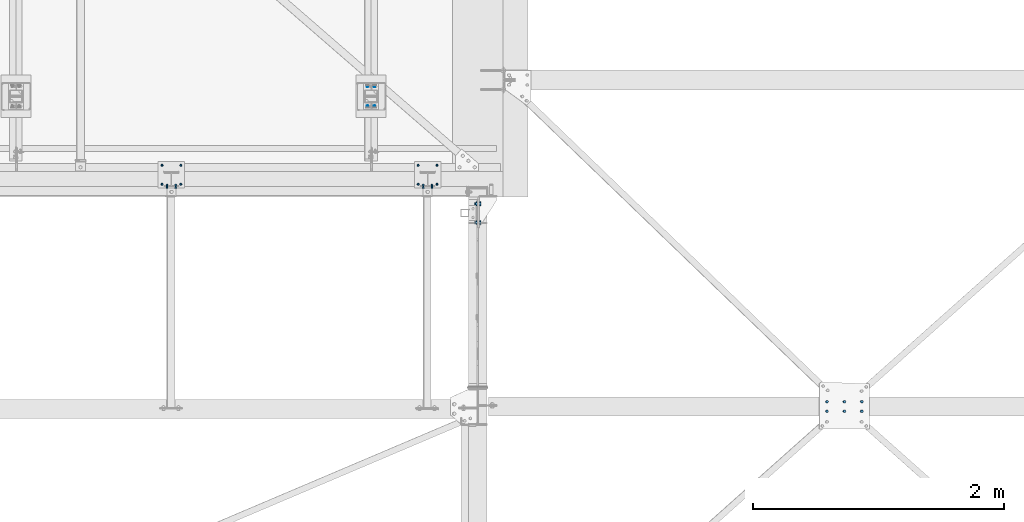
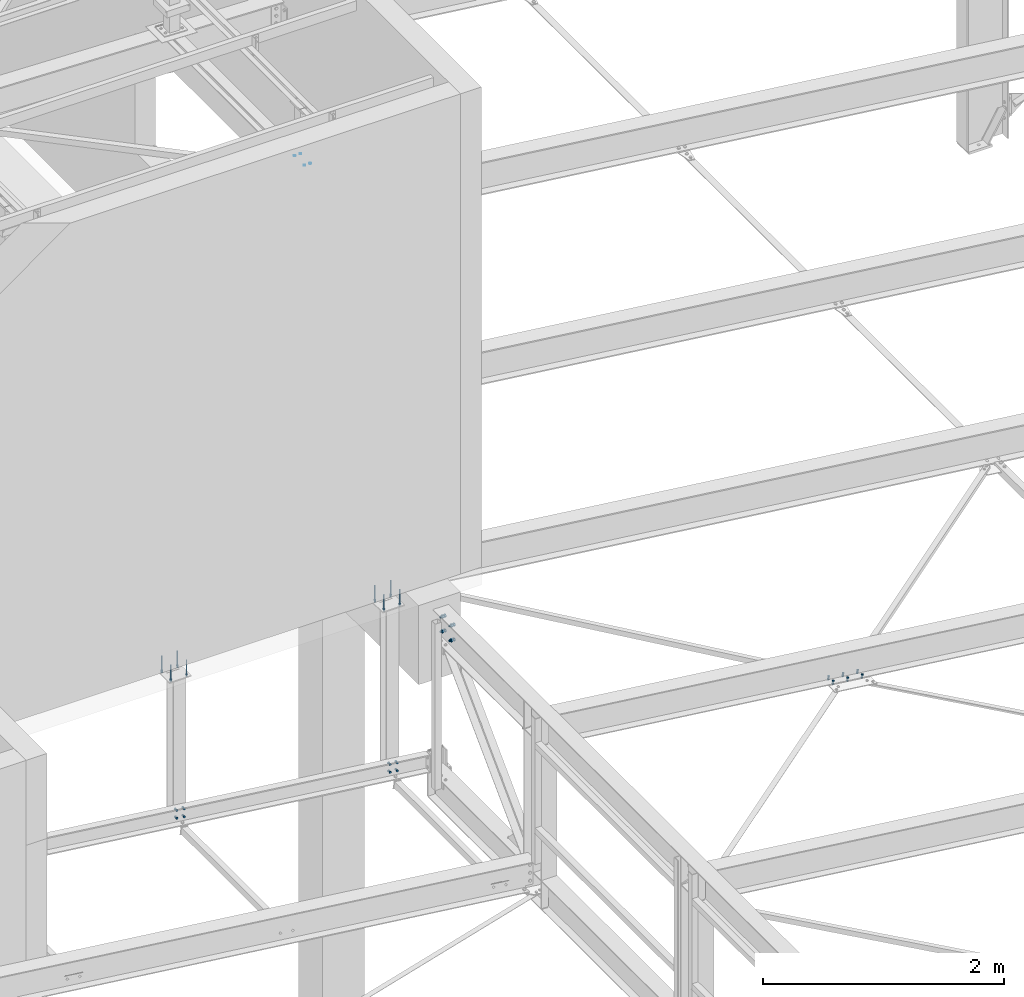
# One storey, part 265 of 3134: 9 mechanical fasteners, 5 elements without a shape of their own.
"""IFC2X3 building model written with IfcOpenShell, lengths in millimetres."""

import ifcopenshell
import ifcopenshell.guid

model = None  # the IFC model being written
_history = None  # IfcOwnerHistory: only IFC2X3 demands one
_inside = {}  # id of a spatial element -> (the spatial element, [elements in it])
_under = {}  # id of a project, library or spatial element -> (it, [spatial elements below it])
_declared = {}  # id of a project -> (the project, [libraries it declares])
_typed = {}  # id of a type object -> (the type object, [elements of that type])
_made_of = {}  # id of a material, layer set ... -> (it, [elements and type objects made of it])


def new_model(schema):
    """Start an empty IFC model of exactly this schema.

    Asked for "IFC4X3", IfcOpenShell would pick the latest addendum, in which some entities
    have other attributes; the version numbers below select the first issue.
    IFC2X3 requires an IfcOwnerHistory on every rooted entity: one is made here for all.
    """
    global model, _history
    if schema == "IFC4X3":
        model = ifcopenshell.file(schema_version=(4, 3, 0, 0))
    else:
        model = ifcopenshell.file(schema=schema)
    _inside.clear()
    _under.clear()
    _declared.clear()
    _typed.clear()
    _made_of.clear()
    _history = None
    if model.schema == "IFC2X3":
        org = make("IfcOrganization", Name="unknown")
        user = make(
            "IfcPersonAndOrganization",
            ThePerson=make("IfcPerson", FamilyName="unknown"),
            TheOrganization=org,
        )
        app = make(
            "IfcApplication",
            ApplicationDeveloper=org,
            Version="unknown",
            ApplicationFullName="unknown",
            ApplicationIdentifier="unknown",
        )
        _history = make(
            "IfcOwnerHistory",
            OwningUser=user,
            OwningApplication=app,
            ChangeAction="ADDED",
            CreationDate=0,
        )
    return model


def make(cls, **values):
    """One entity of the class cls with the attributes given. An attribute that is None is left unset."""
    return model.create_entity(
        cls, **{name: value for name, value in values.items() if value is not None}
    )


def rooted(cls, **values):
    """An entity with a GlobalId (a new one), such as an element, a storey or a relation."""
    return make(cls, GlobalId=ifcopenshell.guid.new(), OwnerHistory=_history, **values)


def si_unit(unit_type, name, prefix=None):
    """IfcSIUnit, for example si_unit("LENGTHUNIT", "METRE", prefix="MILLI")."""
    return make("IfcSIUnit", UnitType=unit_type, Prefix=prefix, Name=name)


def assignment(units):
    """IfcUnitAssignment: the units of a project."""
    return None if units is None else make("IfcUnitAssignment", Units=units)


def point(xyz):
    """IfcCartesianPoint."""
    return None if xyz is None else make("IfcCartesianPoint", Coordinates=xyz)


def direction(xyz):
    """IfcDirection."""
    return None if xyz is None else make("IfcDirection", DirectionRatios=xyz)


def frame(location, z_axis=None, x_axis=None):
    """IfcAxis2Placement3D, a coordinate frame: its origin and axes. An axis left out is left unset."""
    return make(
        "IfcAxis2Placement3D",
        Location=point(location),
        Axis=direction(z_axis),
        RefDirection=direction(x_axis),
    )


def origin_with_axes():
    """The frame at (0, 0, 0) with the z axis (0, 0, 1) and the x axis (1, 0, 0) written out."""
    return frame((0.0, 0.0, 0.0), z_axis=(0.0, 0.0, 1.0), x_axis=(1.0, 0.0, 0.0))


def place(relative_to, where):
    """IfcLocalPlacement: puts the frame where relative to a parent placement (None: the world)."""
    return make(
        "IfcLocalPlacement", PlacementRelTo=relative_to, RelativePlacement=where
    )


def context(
    kind, dimensions, precision=None, world=None, true_north=None, identifier=None
):
    """IfcGeometricRepresentationContext, for example the 3D "Model" context."""
    return make(
        "IfcGeometricRepresentationContext",
        ContextIdentifier=identifier,
        ContextType=kind,
        CoordinateSpaceDimension=dimensions,
        Precision=precision,
        WorldCoordinateSystem=world,
        TrueNorth=true_north,
    )


def subcontext(parent, identifier, kind, view, scale=None):
    """IfcGeometricRepresentationSubContext, for example "Body" below "Model"."""
    return make(
        "IfcGeometricRepresentationSubContext",
        ContextIdentifier=identifier,
        ContextType=kind,
        ParentContext=parent,
        TargetScale=scale,
        TargetView=view,
    )


def project(units=None, contexts=None):
    """IfcProject with its units and contexts."""
    return rooted(
        "IfcProject",
        Name="project",
        RepresentationContexts=contexts,
        UnitsInContext=assignment(units),
    )


def spatial(cls, under=None, at=None, **own):
    """A site, building, storey or space (cls), placed at a placement, below another one or the project."""
    s = rooted(cls, ObjectPlacement=at, **own)
    if under is not None:
        _under.setdefault(under.id(), (under, []))[1].append(s)
    return s


def faces_of(points, faces, orient=None, outer=None):
    """IfcFace entities. A face is a list of loops; a loop is a list of indices into points, from 0.

    orient and outer hold one flag for each loop. By default every Orientation is true, the
    first loop of a face is its IfcFaceOuterBound and the others are IfcFaceBound.
    """
    made = []
    for i, loops in enumerate(faces):
        bounds = []
        for j, loop in enumerate(loops):
            is_outer = j == 0 if outer is None else outer[i][j]
            bounds.append(
                make(
                    "IfcFaceOuterBound" if is_outer else "IfcFaceBound",
                    Bound=make("IfcPolyLoop", Polygon=[points[k] for k in loop]),
                    Orientation=True if orient is None else orient[i][j],
                )
            )
        made.append(make("IfcFace", Bounds=bounds))
    return made


def faceted_brep(points, faces, orient=None, outer=None, voids=None):
    """IfcFacetedBrep: a solid bounded by flat faces; with voids (closed shells), ...WithVoids."""
    shared = [point(p) for p in points]
    hull = make("IfcClosedShell", CfsFaces=faces_of(shared, faces, orient, outer))
    if voids is None:
        return make("IfcFacetedBrep", Outer=hull)
    return make(
        "IfcFacetedBrepWithVoids",
        Outer=hull,
        Voids=[
            make(cls, CfsFaces=faces_of(shared, fs, o, b)) for cls, fs, o, b in voids
        ],
    )


def shape(context_of_items, identifier, shape_type, items):
    """IfcShapeRepresentation: the items that make up one representation, for example the "Body"."""
    return make(
        "IfcShapeRepresentation",
        ContextOfItems=context_of_items,
        RepresentationIdentifier=identifier,
        RepresentationType=shape_type,
        Items=items,
    )


def source(mapping_origin, context_of_items, identifier, shape_type, items):
    """IfcRepresentationMap: a shape defined once, which mapped items show again and again."""
    return make(
        "IfcRepresentationMap",
        MappingOrigin=mapping_origin,
        MappedRepresentation=shape(context_of_items, identifier, shape_type, items),
    )


def transform(
    local_origin,
    x_axis=None,
    y_axis=None,
    z_axis=None,
    scale=None,
    scale2=None,
    scale3=None,
    uniform=True,
):
    """IfcCartesianTransformationOperator3D, or its non-uniform kind. x_axis, y_axis, z_axis: its Axis1, 2, 3."""
    if uniform:
        return make(
            "IfcCartesianTransformationOperator3D",
            Axis1=direction(x_axis),
            Axis2=direction(y_axis),
            LocalOrigin=point(local_origin),
            Scale=scale,
            Axis3=direction(z_axis),
        )
    return make(
        "IfcCartesianTransformationOperator3DnonUniform",
        Axis1=direction(x_axis),
        Axis2=direction(y_axis),
        LocalOrigin=point(local_origin),
        Scale=scale,
        Axis3=direction(z_axis),
        Scale2=scale2,
        Scale3=scale3,
    )


def mapped(mapping_source, mapping_target):
    """IfcMappedItem: shows the shape of a source again, moved by a transform."""
    return make(
        "IfcMappedItem", MappingSource=mapping_source, MappingTarget=mapping_target
    )


def material(Name=None, Category=None):
    """IfcMaterial."""
    return make("IfcMaterial", Name=Name, Category=Category)


def made_of(thing, what):
    """Note that an element or type object is made of a material, layer set ...; save() writes the relation."""
    if what is not None:
        _made_of.setdefault(what.id(), (what, []))[1].append(thing)
    return thing


def type_object(cls, material=None, **own):
    """A type object (cls), such as IfcWallType, which elements share."""
    return made_of(rooted(cls, **own), material)


def element(
    cls,
    number,
    at=None,
    inside=None,
    cuts=None,
    type_object=None,
    material=None,
    context=None,
    identifier="Body",
    shape_type=None,
    held_by="IfcProductDefinitionShape",
    body=None,
    shapes=None,
    **own,
):
    """One element of the class cls, such as IfcWall. Its Tag is "e" and its number.

    at: its placement. inside: the storey or other place that contains it. cuts: it is an
    opening in that element (IfcRelVoidsElement). A single representation is given by context,
    identifier, shape_type and body (its items); several are given by shapes. held_by: the class
    of the entity that holds the representations. save() writes the other relations.
    """
    e = rooted(cls, Tag="e%d" % number, ObjectPlacement=at, **own)
    if body is not None:
        shapes = [shape(context, identifier, shape_type, body)]
    if shapes is not None:
        e.Representation = make(held_by, Representations=shapes)
    if inside is not None:
        _inside.setdefault(inside.id(), (inside, []))[1].append(e)
    if cuts is not None:
        rooted(
            "IfcRelVoidsElement", RelatingBuildingElement=cuts, RelatedOpeningElement=e
        )
    if type_object is not None:
        _typed.setdefault(type_object.id(), (type_object, []))[1].append(e)
    return made_of(e, material)


def aggregate(whole, parts):
    """IfcRelAggregates: a whole, such as a stair, and the parts it consists of."""
    return rooted("IfcRelAggregates", RelatingObject=whole, RelatedObjects=parts)


def save(model, path):
    """Write the relations noted so far, then the file.

    IfcRelAggregates (storeys below a building ...), IfcRelContainedInSpatialStructure (elements
    in a storey), IfcRelDefinesByType, IfcRelAssociatesMaterial and IfcRelDeclares: one each for
    every whole, place, type object, material and project.
    """
    for whole, parts in _under.values():
        aggregate(whole, parts)
    for where, things in _inside.values():
        rooted(
            "IfcRelContainedInSpatialStructure",
            RelatedElements=things,
            RelatingStructure=where,
        )
    for kind, things in _typed.values():
        rooted("IfcRelDefinesByType", RelatedObjects=things, RelatingType=kind)
    for what, things in _made_of.values():
        rooted("IfcRelAssociatesMaterial", RelatedObjects=things, RelatingMaterial=what)
    for by, libraries in _declared.values():
        rooted("IfcRelDeclares", RelatingContext=by, RelatedDefinitions=libraries)
    model.write(path)


model = new_model("IFC2X3")

# Units and contexts
model_context = context("Model", 3, precision=1e-05, world=origin_with_axes())
body_context = subcontext(model_context, "Body", "Model", "MODEL_VIEW")
ifc_project = project(units=[si_unit("LENGTHUNIT", "METRE", prefix="MILLI"), si_unit("AREAUNIT", "SQUARE_METRE"), si_unit("VOLUMEUNIT", "CUBIC_METRE"), si_unit("MASSUNIT", "GRAM", prefix="KILO"), si_unit("TIMEUNIT", "SECOND"), si_unit("PLANEANGLEUNIT", "RADIAN"), si_unit("SOLIDANGLEUNIT", "STERADIAN"), si_unit("THERMODYNAMICTEMPERATUREUNIT", "DEGREE_CELSIUS"), si_unit("LUMINOUSINTENSITYUNIT", "LUMEN")], contexts=[model_context])

# Site, building, storey
site_placement = place(None, origin_with_axes())
site = spatial("IfcSite", under=ifc_project, at=site_placement, CompositionType="ELEMENT")
building_placement = place(site_placement, origin_with_axes())
building = spatial("IfcBuilding", under=site, at=building_placement, Name="Undefined", CompositionType="ELEMENT")
storey_placement = place(building_placement, origin_with_axes())
storey = spatial("IfcBuildingStorey", under=building, at=storey_placement, Name="Undefined", CompositionType="ELEMENT", Elevation=0.0)

# Assembly, mechanical fastener
assembly_1_placement = place(storey_placement, origin_with_axes())
assembly_1 = element("IfcElementAssembly", 1, at=assembly_1_placement, inside=storey, Name="HEA120", AssemblyPlace="NOTDEFINED", PredefinedType="RIGID_FRAME")
ifc_material_1 = material(Name="HILTI-HAS")
mechanical_fastener_type = type_object("IfcMechanicalFastenerType", Name="Bolt assembly")
shared_shape_1 = source(origin_with_axes(), body_context, "Body", "Brep", [
    faceted_brep([(10.3923048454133, -17.92, 0.0), (5.19615242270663, -17.92, 9.0), (-5.19615242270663, -17.92, 9.0), (-10.3923048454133, -17.92, 1.27269028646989e-15), (-5.19615242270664, -17.92, -9.0), (5.19615242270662, -17.92, -9.0), (5.19615242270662, -10.0, -9.0), (-5.19615242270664, -10.0, -9.0), (-10.3923048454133, -10.0, 1.27269028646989e-15), (-5.19615242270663, -10.0, 9.0), (5.19615242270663, -10.0, 9.0), (10.3923048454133, -10.0, 0.0), (6.0, -10.0, 0.0), (5.19615242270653, -10.0, 3.00000000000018), (2.99999999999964, -10.0, 5.19615242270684), (-6.21801588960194e-13, -10.0, 6.0), (-3.00000000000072, -10.0, 5.19615242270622), (-5.19615242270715, -10.0, 2.9999999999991), (-6.0, -10.0, -1.24360317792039e-12), (-5.19615242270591, -10.0, -3.00000000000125), (-2.99999999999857, -10.0, -5.19615242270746), (1.85874342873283e-12, -10.0, -6.0), (3.00000000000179, -10.0, -5.1961524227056), (5.19615242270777, -10.0, -2.99999999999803), (5.19615242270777, 150.0, -2.99999999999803), (3.00000000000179, 150.0, -5.1961524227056), (1.85874342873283e-12, 150.0, -6.0), (-2.99999999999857, 150.0, -5.19615242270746), (-5.19615242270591, 150.0, -3.00000000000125), (-6.0, 150.0, -1.24360317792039e-12), (-5.19615242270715, 150.0, 2.9999999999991), (-3.00000000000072, 150.0, 5.19615242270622), (-6.21801588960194e-13, 150.0, 6.0), (2.99999999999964, 150.0, 5.19615242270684), (5.19615242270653, 150.0, 3.00000000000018), (6.0, 150.0, 0.0), (11.5008173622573, 0.0, 0.0), (5.75040868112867, 0.0, 9.96), (-5.75040868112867, 0.0, 9.96), (-11.5008173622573, 0.0, 1.40844391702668e-15), (-5.75040868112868, 0.0, -9.96), (5.75040868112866, 0.0, -9.96), (5.75040868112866, 7.92, -9.96), (-5.75040868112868, 7.92, -9.96), (-11.5008173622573, 7.92, 1.40844391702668e-15), (-5.75040868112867, 7.92, 9.96), (5.75040868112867, 7.92, 9.96), (11.5008173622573, 7.92, 0.0)], [[[0, 1, 2, 3, 4, 5]], [[6, 7, 8, 9, 10, 11]], [[0, 11, 10, 1]], [[1, 10, 9, 2]], [[2, 9, 8, 3]], [[3, 8, 7, 4]], [[4, 7, 6, 5]], [[5, 6, 11, 0]], [[12, 13, 14, 15, 16, 17, 18, 19, 20, 21, 22, 23]], [[24, 25, 26, 27, 28, 29, 30, 31, 32, 33, 34, 35]], [[12, 35, 34, 13]], [[13, 34, 33, 14]], [[14, 33, 32, 15]], [[15, 32, 31, 16]], [[16, 31, 30, 17]], [[17, 30, 29, 18]], [[18, 29, 28, 19]], [[19, 28, 27, 20]], [[20, 27, 26, 21]], [[21, 26, 25, 22]], [[22, 25, 24, 23]], [[23, 24, 35, 12]], [[36, 37, 38, 39, 40, 41]], [[42, 43, 44, 45, 46, 47]], [[36, 47, 46, 37]], [[37, 46, 45, 38]], [[38, 45, 44, 39]], [[39, 44, 43, 40]], [[40, 43, 42, 41]], [[41, 42, 47, 36]]]),
    faceted_brep([(7.0, -10.0, 0.0), (6.06217782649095, -10.0, 3.50000000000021), (3.49999999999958, -10.0, 6.06217782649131), (-7.25435187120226e-13, -10.0, 7.0), (-3.50000000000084, -10.0, 6.06217782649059), (-6.06217782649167, -10.0, 3.49999999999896), (-7.0, -10.0, -1.45087037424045e-12), (-6.06217782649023, -10.0, -3.50000000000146), (-3.49999999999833, -10.0, -6.06217782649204), (2.1685340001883e-12, -10.0, -7.0), (3.50000000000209, -10.0, -6.06217782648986), (6.0621778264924, -10.0, -3.4999999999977), (6.0621778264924, 0.0999999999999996, -3.4999999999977), (3.50000000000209, 0.0999999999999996, -6.06217782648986), (2.1685340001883e-12, 0.0999999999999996, -7.0), (-3.49999999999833, 0.0999999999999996, -6.06217782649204), (-6.06217782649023, 0.0999999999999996, -3.50000000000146), (-7.0, 0.0999999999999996, -1.45087037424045e-12), (-6.06217782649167, 0.0999999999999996, 3.49999999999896), (-3.50000000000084, 0.0999999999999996, 6.06217782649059), (-7.25435187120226e-13, 0.0999999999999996, 7.0), (3.49999999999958, 0.0999999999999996, 6.06217782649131), (6.06217782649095, 0.0999999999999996, 3.50000000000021), (7.0, 0.0999999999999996, 0.0)], [[[0, 1, 2, 3, 4, 5, 6, 7, 8, 9, 10, 11]], [[12, 13, 14, 15, 16, 17, 18, 19, 20, 21, 22, 23]], [[0, 23, 22, 1]], [[1, 22, 21, 2]], [[2, 21, 20, 3]], [[3, 20, 19, 4]], [[4, 19, 18, 5]], [[5, 18, 17, 6]], [[6, 17, 16, 7]], [[7, 16, 15, 8]], [[8, 15, 14, 9]], [[9, 14, 13, 10]], [[10, 13, 12, 11]], [[11, 12, 23, 0]]]),
])
mechanical_fastener_1_placement = place(assembly_1_placement, frame((32050.0, 49894.9999999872, 5960.0), z_axis=(0.0, -1.0, 0.0), x_axis=(1.0, 0.0, 0.0)))
mechanical_fastener_1 = element("IfcMechanicalFastener", 2, at=mechanical_fastener_1_placement, type_object=mechanical_fastener_type, material=ifc_material_1, Name="Bolt assembly", NominalDiameter=12.0, NominalLength=160.0, context=body_context, shape_type="MappedRepresentation", body=[
    mapped(shared_shape_1, transform((0.0, 0.0, -75.0))),
    mapped(shared_shape_1, transform((150.0, 0.0, -75.0))),
    mapped(shared_shape_1, transform((0.0, 0.0, 75.0))),
    mapped(shared_shape_1, transform((150.0, 0.0, 75.0))),
])

assembly_2_placement = place(storey_placement, origin_with_axes())
assembly_2 = element("IfcElementAssembly", 3, at=assembly_2_placement, inside=storey, Name="HEA120", AssemblyPlace="NOTDEFINED", PredefinedType="RIGID_FRAME")
mechanical_fastener_2_placement = place(assembly_2_placement, frame((30010.0, 49894.9999999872, 5960.0), z_axis=(0.0, -1.0, 0.0), x_axis=(1.0, 0.0, 0.0)))
mechanical_fastener_2 = element("IfcMechanicalFastener", 4, at=mechanical_fastener_2_placement, type_object=mechanical_fastener_type, material=ifc_material_1, Name="Bolt assembly", NominalDiameter=12.0, NominalLength=160.0, context=body_context, shape_type="MappedRepresentation", body=[
    mapped(shared_shape_1, transform((0.0, 0.0, -75.0))),
    mapped(shared_shape_1, transform((150.0, 0.0, -75.0))),
    mapped(shared_shape_1, transform((0.0, 0.0, 75.0))),
    mapped(shared_shape_1, transform((150.0, 0.0, 75.0))),
])

# Mechanical fastener
ifc_material_2 = material(Name="8.8")
shared_shape_2 = source(origin_with_axes(), body_context, "Body", "Brep", [
    faceted_brep([(10.9696551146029, -16.0, 0.0), (5.48482755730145, -16.0, 9.5), (-5.48482755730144, -16.0, 9.5), (-10.9696551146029, -16.0, 1.34339530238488e-15), (-5.48482755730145, -16.0, -9.5), (5.48482755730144, -16.0, -9.50000000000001), (5.48482755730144, -8.0, -9.50000000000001), (-5.48482755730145, -8.0, -9.5), (-10.9696551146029, -8.0, 1.34339530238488e-15), (-5.48482755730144, -8.0, 9.5), (5.48482755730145, -8.0, 9.5), (10.9696551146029, -8.0, 0.0), (6.0, -8.0, 0.0), (5.19615242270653, -8.0, 3.00000000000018), (2.99999999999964, -8.0, 5.19615242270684), (-6.21801588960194e-13, -8.0, 6.0), (-3.00000000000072, -8.0, 5.19615242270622), (-5.19615242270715, -8.0, 2.9999999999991), (-6.0, -8.0, -1.24360317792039e-12), (-5.19615242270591, -8.0, -3.00000000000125), (-2.99999999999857, -8.0, -5.19615242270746), (1.85874342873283e-12, -8.0, -6.0), (3.00000000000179, -8.0, -5.1961524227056), (5.19615242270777, -8.0, -2.99999999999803), (5.19615242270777, 22.0, -2.99999999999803), (3.00000000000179, 22.0, -5.1961524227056), (1.85874342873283e-12, 22.0, -6.0), (-2.99999999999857, 22.0, -5.19615242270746), (-5.19615242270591, 22.0, -3.00000000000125), (-6.0, 22.0, -1.24360317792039e-12), (-5.19615242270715, 22.0, 2.9999999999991), (-3.00000000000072, 22.0, 5.19615242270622), (-6.21801588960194e-13, 22.0, 6.0), (2.99999999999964, 22.0, 5.19615242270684), (5.19615242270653, 22.0, 3.00000000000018), (6.0, 22.0, 0.0), (10.9696551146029, 8.0, 0.0), (5.48482755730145, 8.0, 9.5), (-5.48482755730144, 8.0, 9.5), (-10.9696551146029, 8.0, 1.34339530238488e-15), (-5.48482755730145, 8.0, -9.5), (5.48482755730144, 8.0, -9.50000000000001), (5.48482755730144, 18.0, -9.50000000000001), (-5.48482755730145, 18.0, -9.5), (-10.9696551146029, 18.0, 1.34339530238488e-15), (-5.48482755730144, 18.0, 9.5), (5.48482755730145, 18.0, 9.5), (10.9696551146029, 18.0, 0.0)], [[[0, 1, 2, 3, 4, 5]], [[6, 7, 8, 9, 10, 11]], [[0, 11, 10, 1]], [[1, 10, 9, 2]], [[2, 9, 8, 3]], [[3, 8, 7, 4]], [[4, 7, 6, 5]], [[5, 6, 11, 0]], [[12, 13, 14, 15, 16, 17, 18, 19, 20, 21, 22, 23]], [[24, 25, 26, 27, 28, 29, 30, 31, 32, 33, 34, 35]], [[12, 35, 34, 13]], [[13, 34, 33, 14]], [[14, 33, 32, 15]], [[15, 32, 31, 16]], [[16, 31, 30, 17]], [[17, 30, 29, 18]], [[18, 29, 28, 19]], [[19, 28, 27, 20]], [[20, 27, 26, 21]], [[21, 26, 25, 22]], [[22, 25, 24, 23]], [[23, 24, 35, 12]], [[36, 37, 38, 39, 40, 41]], [[42, 43, 44, 45, 46, 47]], [[36, 47, 46, 37]], [[37, 46, 45, 38]], [[38, 45, 44, 39]], [[39, 44, 43, 40]], [[40, 43, 42, 41]], [[41, 42, 47, 36]]]),
    faceted_brep([(7.0, -7.9, 0.0), (6.06217782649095, -7.9, 3.50000000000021), (3.49999999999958, -7.9, 6.06217782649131), (-7.25435187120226e-13, -7.9, 7.0), (-3.50000000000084, -7.9, 6.06217782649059), (-6.06217782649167, -7.9, 3.49999999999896), (-7.0, -7.9, -1.45087037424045e-12), (-6.06217782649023, -7.9, -3.50000000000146), (-3.49999999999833, -7.9, -6.06217782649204), (2.1685340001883e-12, -7.9, -7.0), (3.50000000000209, -7.9, -6.06217782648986), (6.0621778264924, -7.9, -3.4999999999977), (6.0621778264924, 0.0999999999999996, -3.4999999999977), (3.50000000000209, 0.0999999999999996, -6.06217782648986), (2.1685340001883e-12, 0.0999999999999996, -7.0), (-3.49999999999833, 0.0999999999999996, -6.06217782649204), (-6.06217782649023, 0.0999999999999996, -3.50000000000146), (-7.0, 0.0999999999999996, -1.45087037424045e-12), (-6.06217782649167, 0.0999999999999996, 3.49999999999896), (-3.50000000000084, 0.0999999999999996, 6.06217782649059), (-7.25435187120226e-13, 0.0999999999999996, 7.0), (3.49999999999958, 0.0999999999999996, 6.06217782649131), (6.06217782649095, 0.0999999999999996, 3.50000000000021), (7.0, 0.0999999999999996, 0.0), (7.0, -0.1, 0.0), (6.06217782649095, -0.1, 3.50000000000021), (3.49999999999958, -0.1, 6.06217782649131), (-7.25435187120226e-13, -0.1, 7.0), (-3.50000000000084, -0.1, 6.06217782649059), (-6.06217782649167, -0.1, 3.49999999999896), (-7.0, -0.1, -1.45087037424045e-12), (-6.06217782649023, -0.1, -3.50000000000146), (-3.49999999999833, -0.1, -6.06217782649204), (2.1685340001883e-12, -0.1, -7.0), (3.50000000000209, -0.1, -6.06217782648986), (6.0621778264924, -0.1, -3.4999999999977), (6.0621778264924, 8.0000000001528, -3.4999999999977), (3.50000000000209, 8.0000000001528, -6.06217782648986), (2.1685340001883e-12, 8.0000000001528, -7.0), (-3.49999999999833, 8.0000000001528, -6.06217782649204), (-6.06217782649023, 8.0000000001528, -3.50000000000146), (-7.0, 8.0000000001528, -1.45087037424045e-12), (-6.06217782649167, 8.0000000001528, 3.49999999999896), (-3.50000000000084, 8.0000000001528, 6.06217782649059), (-7.25435187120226e-13, 8.0000000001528, 7.0), (3.49999999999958, 8.0000000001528, 6.06217782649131), (6.06217782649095, 8.0000000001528, 3.50000000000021), (7.0, 8.0000000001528, 0.0)], [[[0, 1, 2, 3, 4, 5, 6, 7, 8, 9, 10, 11]], [[12, 13, 14, 15, 16, 17, 18, 19, 20, 21, 22, 23]], [[0, 23, 22, 1]], [[1, 22, 21, 2]], [[2, 21, 20, 3]], [[3, 20, 19, 4]], [[4, 19, 18, 5]], [[5, 18, 17, 6]], [[6, 17, 16, 7]], [[7, 16, 15, 8]], [[8, 15, 14, 9]], [[9, 14, 13, 10]], [[10, 13, 12, 11]], [[11, 12, 23, 0]], [[24, 25, 26, 27, 28, 29, 30, 31, 32, 33, 34, 35]], [[36, 37, 38, 39, 40, 41, 42, 43, 44, 45, 46, 47]], [[24, 47, 46, 25]], [[25, 46, 45, 26]], [[26, 45, 44, 27]], [[27, 44, 43, 28]], [[28, 43, 42, 29]], [[29, 42, 41, 30]], [[30, 41, 40, 31]], [[31, 40, 39, 32]], [[32, 39, 38, 33]], [[33, 38, 37, 34]], [[34, 37, 36, 35]], [[35, 36, 47, 24]]]),
])
mechanical_fastener_3_placement = place(assembly_1_placement, frame((32090.0, 49799.9999999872, 4395.75021810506), z_axis=(1.0, 0.0, 0.0), x_axis=(0.0, 0.0, -1.0)))
mechanical_fastener_3 = element("IfcMechanicalFastener", 5, at=mechanical_fastener_3_placement, type_object=mechanical_fastener_type, material=ifc_material_2, Name="Bolt assembly", NominalDiameter=12.0, NominalLength=30.0, context=body_context, shape_type="MappedRepresentation", body=[
    mapped(shared_shape_2, transform((0.0, 0.0, 0.0))),
    mapped(shared_shape_2, transform((80.5899963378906, 0.0, 0.0))),
])

mechanical_fastener_4_placement = place(assembly_1_placement, frame((32160.0, 49799.9999999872, 4387.21021810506), z_axis=(1.0, 0.0, 0.0), x_axis=(0.0, 0.0, -1.0)))
mechanical_fastener_4 = element("IfcMechanicalFastener", 6, at=mechanical_fastener_4_placement, type_object=mechanical_fastener_type, material=ifc_material_2, Name="Bolt assembly", NominalDiameter=12.0, NominalLength=30.0, context=body_context, shape_type="MappedRepresentation", body=[
    mapped(shared_shape_2, transform((0.0, 0.0, 0.0))),
    mapped(shared_shape_2, transform((80.5899963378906, 0.0, 0.0))),
])

aggregate(assembly_1, [mechanical_fastener_1, mechanical_fastener_3, mechanical_fastener_4])

mechanical_fastener_5_placement = place(assembly_2_placement, frame((30050.0, 49799.9999999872, 4644.92021810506), z_axis=(1.0, 0.0, 0.0), x_axis=(0.0, 0.0, -1.0)))
mechanical_fastener_5 = element("IfcMechanicalFastener", 7, at=mechanical_fastener_5_placement, type_object=mechanical_fastener_type, material=ifc_material_2, Name="Bolt assembly", NominalDiameter=12.0, NominalLength=30.0, context=body_context, shape_type="MappedRepresentation", body=[
    mapped(shared_shape_2, transform((0.0, 0.0, 0.0))),
    mapped(shared_shape_2, transform((80.5899963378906, 0.0, 0.0))),
])

mechanical_fastener_6_placement = place(assembly_2_placement, frame((30120.0, 49799.9999999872, 4636.38021810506), z_axis=(1.0, 0.0, 0.0), x_axis=(0.0, 0.0, -1.0)))
mechanical_fastener_6 = element("IfcMechanicalFastener", 8, at=mechanical_fastener_6_placement, type_object=mechanical_fastener_type, material=ifc_material_2, Name="Bolt assembly", NominalDiameter=12.0, NominalLength=30.0, context=body_context, shape_type="MappedRepresentation", body=[
    mapped(shared_shape_2, transform((0.0, 0.0, 0.0))),
    mapped(shared_shape_2, transform((80.5899963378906, 0.0, 0.0))),
])

aggregate(assembly_2, [mechanical_fastener_2, mechanical_fastener_5, mechanical_fastener_6])

# Assembly, mechanical fastener
assembly_3_placement = place(storey_placement, origin_with_axes())
assembly_3 = element("IfcElementAssembly", 9, at=assembly_3_placement, inside=storey, Name="PL10", AssemblyPlace="NOTDEFINED", PredefinedType="RIGID_FRAME")
shared_shape_3 = source(origin_with_axes(), body_context, "Body", "Brep", [
    faceted_brep([(17.3205080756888, -23.0, 0.0), (8.66025403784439, -23.0, 15.0), (-8.66025403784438, -23.0, 15.0), (-17.3205080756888, -23.0, 2.12115047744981e-15), (-8.66025403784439, -23.0, -15.0), (8.66025403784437, -23.0, -15.0), (8.66025403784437, -10.0, -15.0), (-8.66025403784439, -10.0, -15.0), (-17.3205080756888, -10.0, 2.12115047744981e-15), (-8.66025403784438, -10.0, 15.0), (8.66025403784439, -10.0, 15.0), (17.3205080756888, -10.0, 0.0), (10.0, -10.0, 0.0), (8.66025403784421, -10.0, 5.0000000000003), (4.9999999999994, -10.0, 8.66025403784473), (-1.03633598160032e-12, -10.0, 10.0), (-5.00000000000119, -10.0, 8.6602540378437), (-8.66025403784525, -10.0, 4.99999999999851), (-10.0, -10.0, -2.07267196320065e-12), (-8.66025403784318, -10.0, -5.00000000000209), (-4.99999999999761, -10.0, -8.66025403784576), (3.09790571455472e-12, -10.0, -10.0), (5.00000000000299, -10.0, -8.66025403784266), (8.66025403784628, -10.0, -4.99999999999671), (8.66025403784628, 30.0, -4.99999999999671), (5.00000000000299, 30.0, -8.66025403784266), (3.09790571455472e-12, 30.0, -10.0), (-4.99999999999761, 30.0, -8.66025403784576), (-8.66025403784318, 30.0, -5.00000000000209), (-10.0, 30.0, -2.07267196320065e-12), (-8.66025403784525, 30.0, 4.99999999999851), (-5.00000000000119, 30.0, 8.6602540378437), (-1.03633598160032e-12, 30.0, 10.0), (4.9999999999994, 30.0, 8.66025403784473), (8.66025403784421, 30.0, 5.0000000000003), (10.0, 30.0, 0.0), (17.3205080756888, 0.0, 0.0), (8.66025403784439, 0.0, 15.0), (-8.66025403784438, 0.0, 15.0), (-17.3205080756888, 0.0, 2.12115047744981e-15), (-8.66025403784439, 0.0, -15.0), (8.66025403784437, 0.0, -15.0), (8.66025403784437, 16.0, -15.0), (-8.66025403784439, 16.0, -15.0), (-17.3205080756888, 16.0, 2.12115047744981e-15), (-8.66025403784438, 16.0, 15.0), (8.66025403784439, 16.0, 15.0), (17.3205080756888, 16.0, 0.0)], [[[0, 1, 2, 3, 4, 5]], [[6, 7, 8, 9, 10, 11]], [[0, 11, 10, 1]], [[1, 10, 9, 2]], [[2, 9, 8, 3]], [[3, 8, 7, 4]], [[4, 7, 6, 5]], [[5, 6, 11, 0]], [[12, 13, 14, 15, 16, 17, 18, 19, 20, 21, 22, 23]], [[24, 25, 26, 27, 28, 29, 30, 31, 32, 33, 34, 35]], [[12, 35, 34, 13]], [[13, 34, 33, 14]], [[14, 33, 32, 15]], [[15, 32, 31, 16]], [[16, 31, 30, 17]], [[17, 30, 29, 18]], [[18, 29, 28, 19]], [[19, 28, 27, 20]], [[20, 27, 26, 21]], [[21, 26, 25, 22]], [[22, 25, 24, 23]], [[23, 24, 35, 12]], [[36, 37, 38, 39, 40, 41]], [[42, 43, 44, 45, 46, 47]], [[36, 47, 46, 37]], [[37, 46, 45, 38]], [[38, 45, 44, 39]], [[39, 44, 43, 40]], [[40, 43, 42, 41]], [[41, 42, 47, 36]]]),
    faceted_brep([(11.0, -10.0, 0.0), (9.52627944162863, -10.0, 5.50000000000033), (5.49999999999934, -10.0, 9.5262794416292), (-1.13996957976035e-12, -10.0, 11.0), (-5.50000000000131, -10.0, 9.52627944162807), (-9.52627944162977, -10.0, 5.49999999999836), (-11.0, -10.0, -2.27993915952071e-12), (-9.5262794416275, -10.0, -5.5000000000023), (-5.49999999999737, -10.0, -9.52627944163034), (3.40769628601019e-12, -10.0, -11.0), (5.50000000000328, -10.0, -9.52627944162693), (9.52627944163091, -10.0, -5.49999999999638), (9.52627944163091, 0.0999999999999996, -5.49999999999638), (5.50000000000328, 0.0999999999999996, -9.52627944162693), (3.40769628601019e-12, 0.0999999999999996, -11.0), (-5.49999999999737, 0.0999999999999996, -9.52627944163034), (-9.5262794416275, 0.0999999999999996, -5.5000000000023), (-11.0, 0.0999999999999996, -2.27993915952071e-12), (-9.52627944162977, 0.0999999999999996, 5.49999999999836), (-5.50000000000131, 0.0999999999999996, 9.52627944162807), (-1.13996957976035e-12, 0.0999999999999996, 11.0), (5.49999999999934, 0.0999999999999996, 9.5262794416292), (9.52627944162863, 0.0999999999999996, 5.50000000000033), (11.0, 0.0999999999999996, 0.0)], [[[0, 1, 2, 3, 4, 5, 6, 7, 8, 9, 10, 11]], [[12, 13, 14, 15, 16, 17, 18, 19, 20, 21, 22, 23]], [[0, 23, 22, 1]], [[1, 22, 21, 2]], [[2, 21, 20, 3]], [[3, 20, 19, 4]], [[4, 19, 18, 5]], [[5, 18, 17, 6]], [[6, 17, 16, 7]], [[7, 16, 15, 8]], [[8, 15, 14, 9]], [[9, 14, 13, 10]], [[10, 13, 12, 11]], [[11, 12, 23, 0]]]),
])
mechanical_fastener_7_placement = place(assembly_3_placement, frame((32528.045002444, 49665.0000001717, 5741.50000004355), z_axis=(0.0, 0.0, -1.0), x_axis=(0.0, -1.0, 0.0)))
mechanical_fastener_7 = element("IfcMechanicalFastener", 10, at=mechanical_fastener_7_placement, type_object=mechanical_fastener_type, material=ifc_material_2, Name="Bolt assembly", NominalDiameter=20.0, NominalLength=40.0, context=body_context, shape_type="MappedRepresentation", body=[
    mapped(shared_shape_3, transform((0.0, 0.0, -75.0))),
    mapped(shared_shape_3, transform((150.0, 0.0, -75.0))),
    mapped(shared_shape_3, transform((0.0, 0.0, 75.0))),
    mapped(shared_shape_3, transform((150.0, 0.0, 75.0))),
])
aggregate(assembly_3, [mechanical_fastener_7])

assembly_4_placement = place(storey_placement, origin_with_axes())
assembly_4 = element("IfcElementAssembly", 11, at=assembly_4_placement, inside=storey, Name="300", AssemblyPlace="NOTDEFINED", PredefinedType="RIGID_FRAME")
shared_shape_4 = source(origin_with_axes(), body_context, "Body", "Brep", [
    faceted_brep([(10.9696551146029, -17.1999998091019, 0.0), (5.48482755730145, -17.1999998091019, 9.5), (-5.48482755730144, -17.1999998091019, 9.5), (-10.9696551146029, -17.1999998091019, 1.34339530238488e-15), (-5.48482755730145, -17.1999998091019, -9.5), (5.48482755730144, -17.1999998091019, -9.50000000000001), (5.48482755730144, -9.19999978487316, -9.50000000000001), (-5.48482755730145, -9.19999978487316, -9.5), (-10.9696551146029, -9.19999978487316, 1.34339530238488e-15), (-5.48482755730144, -9.19999978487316, 9.5), (5.48482755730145, -9.19999978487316, 9.5), (10.9696551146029, -9.19999978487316, 0.0), (6.0, -9.19999978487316, 0.0), (5.19615242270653, -9.19999978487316, 3.00000000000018), (2.99999999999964, -9.19999978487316, 5.19615242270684), (-6.21801588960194e-13, -9.19999978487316, 6.0), (-3.00000000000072, -9.19999978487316, 5.19615242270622), (-5.19615242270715, -9.19999978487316, 2.9999999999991), (-6.0, -9.19999978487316, -1.24360317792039e-12), (-5.19615242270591, -9.19999978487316, -3.00000000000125), (-2.99999999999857, -9.19999978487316, -5.19615242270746), (1.85874342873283e-12, -9.19999978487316, -6.0), (3.00000000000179, -9.19999978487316, -5.1961524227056), (5.19615242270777, -9.19999978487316, -2.99999999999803), (5.19615242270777, 25.8000002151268, -2.99999999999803), (3.00000000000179, 25.8000002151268, -5.1961524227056), (1.85874342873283e-12, 25.8000002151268, -6.0), (-2.99999999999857, 25.8000002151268, -5.19615242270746), (-5.19615242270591, 25.8000002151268, -3.00000000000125), (-6.0, 25.8000002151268, -1.24360317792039e-12), (-5.19615242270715, 25.8000002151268, 2.9999999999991), (-3.00000000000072, 25.8000002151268, 5.19615242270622), (-6.21801588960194e-13, 25.8000002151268, 6.0), (2.99999999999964, 25.8000002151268, 5.19615242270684), (5.19615242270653, 25.8000002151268, 3.00000000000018), (6.0, 25.8000002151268, 0.0), (10.9696551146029, 8.0, 0.0), (5.48482755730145, 8.0, 9.5), (-5.48482755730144, 8.0, 9.5), (-10.9696551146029, 8.0, 1.34339530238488e-15), (-5.48482755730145, 8.0, -9.5), (5.48482755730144, 8.0, -9.50000000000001), (5.48482755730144, 18.0, -9.50000000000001), (-5.48482755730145, 18.0, -9.5), (-10.9696551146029, 18.0, 1.34339530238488e-15), (-5.48482755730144, 18.0, 9.5), (5.48482755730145, 18.0, 9.5), (10.9696551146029, 18.0, 0.0)], [[[0, 1, 2, 3, 4, 5]], [[6, 7, 8, 9, 10, 11]], [[0, 11, 10, 1]], [[1, 10, 9, 2]], [[2, 9, 8, 3]], [[3, 8, 7, 4]], [[4, 7, 6, 5]], [[5, 6, 11, 0]], [[12, 13, 14, 15, 16, 17, 18, 19, 20, 21, 22, 23]], [[24, 25, 26, 27, 28, 29, 30, 31, 32, 33, 34, 35]], [[12, 35, 34, 13]], [[13, 34, 33, 14]], [[14, 33, 32, 15]], [[15, 32, 31, 16]], [[16, 31, 30, 17]], [[17, 30, 29, 18]], [[18, 29, 28, 19]], [[19, 28, 27, 20]], [[20, 27, 26, 21]], [[21, 26, 25, 22]], [[22, 25, 24, 23]], [[23, 24, 35, 12]], [[36, 37, 38, 39, 40, 41]], [[42, 43, 44, 45, 46, 47]], [[36, 47, 46, 37]], [[37, 46, 45, 38]], [[38, 45, 44, 39]], [[39, 44, 43, 40]], [[40, 43, 42, 41]], [[41, 42, 47, 36]]]),
    faceted_brep([(7.0, -0.1, 0.0), (6.06217782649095, -0.1, 3.50000000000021), (3.49999999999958, -0.1, 6.06217782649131), (-7.25435187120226e-13, -0.1, 7.0), (-3.50000000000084, -0.1, 6.06217782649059), (-6.06217782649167, -0.1, 3.49999999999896), (-7.0, -0.1, -1.45087037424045e-12), (-6.06217782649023, -0.1, -3.50000000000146), (-3.49999999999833, -0.1, -6.06217782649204), (2.1685340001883e-12, -0.1, -7.0), (3.50000000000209, -0.1, -6.06217782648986), (6.0621778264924, -0.1, -3.4999999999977), (6.0621778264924, 8.0000000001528, -3.4999999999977), (3.50000000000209, 8.0000000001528, -6.06217782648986), (2.1685340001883e-12, 8.0000000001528, -7.0), (-3.49999999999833, 8.0000000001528, -6.06217782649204), (-6.06217782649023, 8.0000000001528, -3.50000000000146), (-7.0, 8.0000000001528, -1.45087037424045e-12), (-6.06217782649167, 8.0000000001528, 3.49999999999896), (-3.50000000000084, 8.0000000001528, 6.06217782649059), (-7.25435187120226e-13, 8.0000000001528, 7.0), (3.49999999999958, 8.0000000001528, 6.06217782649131), (6.06217782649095, 8.0000000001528, 3.50000000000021), (7.0, 8.0000000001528, 0.0), (7.0, -9.09999980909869, 0.0), (6.06217782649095, -9.09999980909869, 3.50000000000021), (3.49999999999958, -9.09999980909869, 6.06217782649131), (-7.25435187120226e-13, -9.09999980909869, 7.0), (-3.50000000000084, -9.09999980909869, 6.06217782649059), (-6.06217782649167, -9.09999980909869, 3.49999999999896), (-7.0, -9.09999980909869, -1.45087037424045e-12), (-6.06217782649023, -9.09999980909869, -3.50000000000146), (-3.49999999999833, -9.09999980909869, -6.06217782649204), (2.1685340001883e-12, -9.09999980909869, -7.0), (3.50000000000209, -9.09999980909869, -6.06217782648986), (6.0621778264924, -9.09999980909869, -3.4999999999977), (6.0621778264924, 0.0999999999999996, -3.4999999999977), (3.50000000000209, 0.0999999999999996, -6.06217782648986), (2.1685340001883e-12, 0.0999999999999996, -7.0), (-3.49999999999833, 0.0999999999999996, -6.06217782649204), (-6.06217782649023, 0.0999999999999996, -3.50000000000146), (-7.0, 0.0999999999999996, -1.45087037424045e-12), (-6.06217782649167, 0.0999999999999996, 3.49999999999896), (-3.50000000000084, 0.0999999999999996, 6.06217782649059), (-7.25435187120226e-13, 0.0999999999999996, 7.0), (3.49999999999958, 0.0999999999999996, 6.06217782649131), (6.06217782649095, 0.0999999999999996, 3.50000000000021), (7.0, 0.0999999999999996, 0.0)], [[[0, 1, 2, 3, 4, 5, 6, 7, 8, 9, 10, 11]], [[12, 13, 14, 15, 16, 17, 18, 19, 20, 21, 22, 23]], [[0, 23, 22, 1]], [[1, 22, 21, 2]], [[2, 21, 20, 3]], [[3, 20, 19, 4]], [[4, 19, 18, 5]], [[5, 18, 17, 6]], [[6, 17, 16, 7]], [[7, 16, 15, 8]], [[8, 15, 14, 9]], [[9, 14, 13, 10]], [[10, 13, 12, 11]], [[11, 12, 23, 0]], [[24, 25, 26, 27, 28, 29, 30, 31, 32, 33, 34, 35]], [[36, 37, 38, 39, 40, 41, 42, 43, 44, 45, 46, 47]], [[24, 47, 46, 25]], [[25, 46, 45, 26]], [[26, 45, 44, 27]], [[27, 44, 43, 28]], [[28, 43, 42, 29]], [[29, 42, 41, 30]], [[30, 41, 40, 31]], [[31, 40, 39, 32]], [[32, 39, 38, 33]], [[33, 38, 37, 34]], [[34, 37, 36, 35]], [[35, 36, 47, 24]]]),
])
mechanical_fastener_8_placement = place(assembly_4_placement, frame((35583.2022067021, 48050.0, 5146.25993625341), z_axis=(0.0, -1.0, 0.0), x_axis=(-0.992623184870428, 0.0, 0.121240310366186)))
mechanical_fastener_8 = element("IfcMechanicalFastener", 12, at=mechanical_fastener_8_placement, type_object=mechanical_fastener_type, material=ifc_material_2, Name="Bolt assembly", NominalDiameter=12.0, NominalLength=35.0, context=body_context, shape_type="MappedRepresentation", body=[
    mapped(shared_shape_4, transform((0.0, 0.0, -38.0))),
    mapped(shared_shape_4, transform((140.000000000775, 5.85714587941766e-10, -38.0))),
    mapped(shared_shape_4, transform((279.999999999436, -4.74756234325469e-10, -38.0))),
    mapped(shared_shape_4, transform((0.0, 0.0, 38.0))),
    mapped(shared_shape_4, transform((140.000000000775, 5.85714587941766e-10, 38.0))),
    mapped(shared_shape_4, transform((279.999999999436, -4.74756234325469e-10, 38.0))),
])
aggregate(assembly_4, [mechanical_fastener_8])

assembly_5_placement = place(storey_placement, origin_with_axes())
assembly_5 = element("IfcElementAssembly", 13, at=assembly_5_placement, inside=storey, AssemblyPlace="NOTDEFINED", PredefinedType="RIGID_FRAME")
shared_shape_5 = source(origin_with_axes(), body_context, "Body", "Brep", [
    faceted_brep([(7.0, 13.0000253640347, 0.0), (6.06217782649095, 13.0000253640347, 3.50000000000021), (3.49999999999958, 13.0000253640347, 6.06217782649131), (-7.25435187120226e-13, 13.0000253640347, 7.0), (-3.50000000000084, 13.0000253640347, 6.06217782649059), (-6.06217782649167, 13.0000253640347, 3.49999999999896), (-7.0, 13.0000253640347, -1.45087037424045e-12), (-6.06217782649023, 13.0000253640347, -3.50000000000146), (-3.49999999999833, 13.0000253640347, -6.06217782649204), (2.1685340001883e-12, 13.0000253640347, -7.0), (3.50000000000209, 13.0000253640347, -6.06217782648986), (6.0621778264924, 13.0000253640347, -3.4999999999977), (6.0621778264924, 15.0999999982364, -3.4999999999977), (3.50000000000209, 15.0999999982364, -6.06217782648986), (2.1685340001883e-12, 15.0999999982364, -7.0), (-3.49999999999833, 15.0999999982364, -6.06217782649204), (-6.06217782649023, 15.0999999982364, -3.50000000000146), (-7.0, 15.0999999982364, -1.45087037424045e-12), (-6.06217782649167, 15.0999999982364, 3.49999999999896), (-3.50000000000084, 15.0999999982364, 6.06217782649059), (-7.25435187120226e-13, 15.0999999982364, 7.0), (3.49999999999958, 15.0999999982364, 6.06217782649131), (6.06217782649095, 15.0999999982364, 3.50000000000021), (7.0, 15.0999999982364, 0.0)], [[[0, 1, 2, 3, 4, 5, 6, 7, 8, 9, 10, 11]], [[12, 13, 14, 15, 16, 17, 18, 19, 20, 21, 22, 23]], [[0, 23, 22, 1]], [[1, 22, 21, 2]], [[2, 21, 20, 3]], [[3, 20, 19, 4]], [[4, 19, 18, 5]], [[5, 18, 17, 6]], [[6, 17, 16, 7]], [[7, 16, 15, 8]], [[8, 15, 14, 9]], [[9, 14, 13, 10]], [[10, 13, 12, 11]], [[11, 12, 23, 0]]]),
])
mechanical_fastener_9_placement = place(assembly_5_placement, frame((31646.360203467, 50520.0016352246, 10205.0549309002), z_axis=(0.0, -1.0, 0.0), x_axis=(0.999519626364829, 0.0, -0.030992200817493)))
mechanical_fastener_9 = element("IfcMechanicalFastener", 14, at=mechanical_fastener_9_placement, type_object=mechanical_fastener_type, material=ifc_material_2, Name="Bolt assembly", NominalDiameter=12.0, NominalLength=2.0, context=body_context, shape_type="MappedRepresentation", body=[
    mapped(shared_shape_5, transform((0.0, 5.3114490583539e-10, 79.9999999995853))),
    mapped(shared_shape_5, transform((55.9999999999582, 4.54747350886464e-13, 80.0))),
    mapped(shared_shape_5, transform((0.0, -5.32963895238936e-10, -79.9999999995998))),
    mapped(shared_shape_5, transform((55.9999999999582, 4.54747350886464e-13, -80.0))),
])
aggregate(assembly_5, [mechanical_fastener_9])

save(model, "model.ifc")
